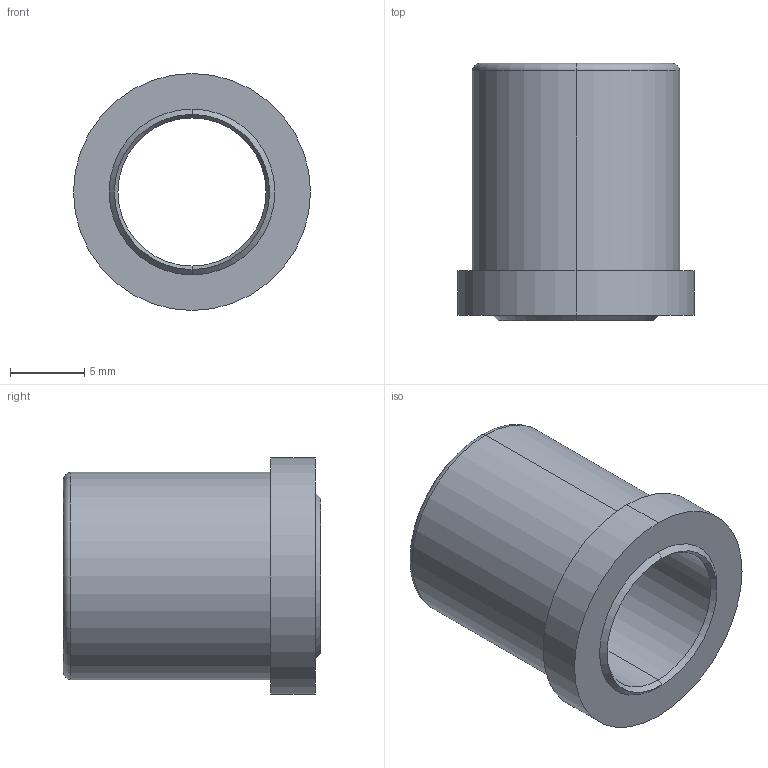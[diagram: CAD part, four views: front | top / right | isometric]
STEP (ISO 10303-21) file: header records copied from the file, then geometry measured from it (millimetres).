
FILE_DESCRIPTION (( 'STEP AP214' ), '1' );
FILE_NAME ('BR11W 9 x 17.STEP', '2019-12-09T17:22:57', ( 'August' ), ( '' ), 'SwSTEP 2.0', 'SolidWorks 2018', '' );
FILE_SCHEMA (( 'AUTOMOTIVE_DESIGN' ));
Length unit declared in the file: millimetre
Products named in the file (1): BR11W 9 x 17
Bounding box: 16 x 17.36 x 16 mm (x, y, z)
Volume: 1420.3 mm3; surface area: 1538.5 mm2
Topology: 1 solids, 1 shells, 17 faces, 34 edges, 20 vertices
Faces by surface type: cone 6, cylinder 6, plane 3, torus 2
Entity records: 484 total; most frequent: DIRECTION 92, CARTESIAN_POINT 72, ORIENTED_EDGE 68, AXIS2_PLACEMENT_3D 40, EDGE_CURVE 34, CIRCLE 22, VERTEX_POINT 20, EDGE_LOOP 20
